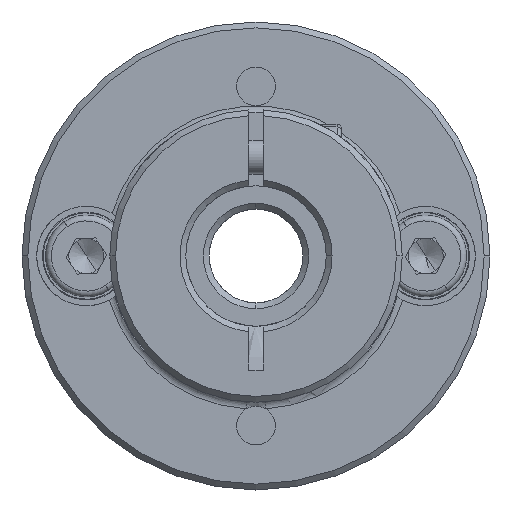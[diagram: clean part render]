
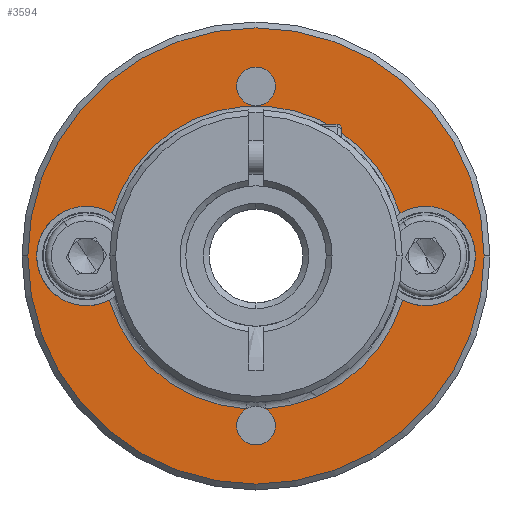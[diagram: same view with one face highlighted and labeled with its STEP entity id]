
A CAD part, front view. The second image highlights one B-rep face of the part: STEP entity #3594.
In plain terms, the highlighted planar face has unit normal (0, -1, 0).
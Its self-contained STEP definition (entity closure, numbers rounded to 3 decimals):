
#53 = VERTEX_POINT ( 'NONE', #5416 ) ;
#203 = EDGE_CURVE ( 'NONE', #6974, #1595, #9056, .T. ) ;
#229 = AXIS2_PLACEMENT_3D ( 'NONE', #10297, #12339, #1515 ) ;
#246 = EDGE_LOOP ( 'NONE', ( #4769, #977, #2061, #7427, #11714, #3789, #11215, #3000, #9687, #7069 ) ) ;
#372 = DIRECTION ( 'NONE',  ( 0., 1., 0. ) ) ;
#401 = CARTESIAN_POINT ( 'NONE',  ( -12.005, -13.63, 40. ) ) ;
#467 = CIRCLE ( 'NONE', #1573, 13.1 ) ;
#544 = CARTESIAN_POINT ( 'NONE',  ( -11.175, -13.63, 26.926 ) ) ;
#664 = CARTESIAN_POINT ( 'NONE',  ( -13.655, -13.63, 25.5 ) ) ;
#947 = CARTESIAN_POINT ( 'NONE',  ( -13.655, -13.63, 54.5 ) ) ;
#977 = ORIENTED_EDGE ( 'NONE', *, *, #9197, .T. ) ;
#1038 = CIRCLE ( 'NONE', #2825, 4.25 ) ;
#1058 = AXIS2_PLACEMENT_3D ( 'NONE', #9180, #9140, #8312 ) ;
#1106 = CIRCLE ( 'NONE', #12363, 4.25 ) ;
#1107 = DIRECTION ( 'NONE',  ( 0., 1., 0. ) ) ;
#1172 = FACE_BOUND ( 'NONE', #246, .T. ) ;
#1188 = CIRCLE ( 'NONE', #1058, 13.1 ) ;
#1226 = CARTESIAN_POINT ( 'NONE',  ( -12.005, -13.63, 25.5 ) ) ;
#1515 = DIRECTION ( 'NONE',  ( 1., 0., 0. ) ) ;
#1573 = AXIS2_PLACEMENT_3D ( 'NONE', #2959, #10890, #8036 ) ;
#1595 = VERTEX_POINT ( 'NONE', #2632 ) ;
#1668 = VERTEX_POINT ( 'NONE', #664 ) ;
#1695 = VERTEX_POINT ( 'NONE', #8691 ) ;
#1707 = CARTESIAN_POINT ( 'NONE',  ( -12.005, -13.63, 40. ) ) ;
#1756 = AXIS2_PLACEMENT_3D ( 'NONE', #7577, #4553, #8398 ) ;
#1835 = ORIENTED_EDGE ( 'NONE', *, *, #7664, .T. ) ;
#2061 = ORIENTED_EDGE ( 'NONE', *, *, #2668, .T. ) ;
#2155 = AXIS2_PLACEMENT_3D ( 'NONE', #5449, #11311, #7413 ) ;
#2159 = CIRCLE ( 'NONE', #4958, 19.5 ) ;
#2193 = EDGE_CURVE ( 'NONE', #3431, #1668, #9378, .T. ) ;
#2632 = CARTESIAN_POINT ( 'NONE',  ( -31.505, -13.63, 40. ) ) ;
#2668 = EDGE_CURVE ( 'NONE', #4781, #8834, #11688, .T. ) ;
#2685 = DIRECTION ( 'NONE',  ( 0., 1., 0. ) ) ;
#2788 = EDGE_CURVE ( 'NONE', #8253, #12700, #1188, .T. ) ;
#2815 = CARTESIAN_POINT ( 'NONE',  ( -26.505, -13.63, 40. ) ) ;
#2825 = AXIS2_PLACEMENT_3D ( 'NONE', #5097, #4070, #10119 ) ;
#2833 = AXIS2_PLACEMENT_3D ( 'NONE', #12725, #12769, #5976 ) ;
#2921 = DIRECTION ( 'NONE',  ( 0., 1., 0. ) ) ;
#2959 = CARTESIAN_POINT ( 'NONE',  ( -12.005, -13.63, 40. ) ) ;
#2987 = VERTEX_POINT ( 'NONE', #12669 ) ;
#3000 = ORIENTED_EDGE ( 'NONE', *, *, #2193, .T. ) ;
#3108 = DIRECTION ( 'NONE',  ( 1., 0., 0. ) ) ;
#3147 = AXIS2_PLACEMENT_3D ( 'NONE', #4888, #2921, #9819 ) ;
#3281 = CARTESIAN_POINT ( 'NONE',  ( 6.745, -13.63, 40. ) ) ;
#3314 = EDGE_CURVE ( 'NONE', #12700, #2987, #4389, .T. ) ;
#3423 = CARTESIAN_POINT ( 'NONE',  ( -24.307, -13.63, 43.638 ) ) ;
#3431 = VERTEX_POINT ( 'NONE', #10257 ) ;
#3594 = ADVANCED_FACE ( 'NONE', ( #10108, #1172, #11498 ), #4505, .T. ) ;
#3693 = ORIENTED_EDGE ( 'NONE', *, *, #203, .T. ) ;
#3755 = DIRECTION ( 'NONE',  ( 1., 0., 0. ) ) ;
#3789 = ORIENTED_EDGE ( 'NONE', *, *, #9935, .T. ) ;
#3926 = VERTEX_POINT ( 'NONE', #3281 ) ;
#4069 = EDGE_LOOP ( 'NONE', ( #10733, #8252 ) ) ;
#4070 = DIRECTION ( 'NONE',  ( 0., 1., 0. ) ) ;
#4298 = EDGE_CURVE ( 'NONE', #1668, #8253, #10918, .T. ) ;
#4389 = CIRCLE ( 'NONE', #7086, 4.25 ) ;
#4505 = PLANE ( 'NONE',  #11949 ) ;
#4553 = DIRECTION ( 'NONE',  ( 0., 1., 0. ) ) ;
#4769 = ORIENTED_EDGE ( 'NONE', *, *, #3314, .T. ) ;
#4781 = VERTEX_POINT ( 'NONE', #3423 ) ;
#4888 = CARTESIAN_POINT ( 'NONE',  ( -12.005, -13.63, 54.5 ) ) ;
#4958 = AXIS2_PLACEMENT_3D ( 'NONE', #401, #5188, #5100 ) ;
#5097 = CARTESIAN_POINT ( 'NONE',  ( 2.495, -13.63, 40. ) ) ;
#5100 = DIRECTION ( 'NONE',  ( 1., 0., 0. ) ) ;
#5188 = DIRECTION ( 'NONE',  ( 0., -1., 0. ) ) ;
#5329 = CIRCLE ( 'NONE', #1756, 1.65 ) ;
#5416 = CARTESIAN_POINT ( 'NONE',  ( -10.355, -13.63, 54.5 ) ) ;
#5449 = CARTESIAN_POINT ( 'NONE',  ( -12.005, -13.63, 25.5 ) ) ;
#5694 = EDGE_CURVE ( 'NONE', #8834, #3926, #6114, .T. ) ;
#5976 = DIRECTION ( 'NONE',  ( 1., 0., 0. ) ) ;
#6068 = DIRECTION ( 'NONE',  ( 1., 0., 0. ) ) ;
#6114 = CIRCLE ( 'NONE', #12499, 4.25 ) ;
#6288 = EDGE_CURVE ( 'NONE', #53, #12208, #8563, .T. ) ;
#6555 = DIRECTION ( 'NONE',  ( 0., -1., 0. ) ) ;
#6974 = VERTEX_POINT ( 'NONE', #10666 ) ;
#7069 = ORIENTED_EDGE ( 'NONE', *, *, #2788, .T. ) ;
#7086 = AXIS2_PLACEMENT_3D ( 'NONE', #10180, #372, #3108 ) ;
#7295 = AXIS2_PLACEMENT_3D ( 'NONE', #1226, #1107, #6068 ) ;
#7304 = VERTEX_POINT ( 'NONE', #544 ) ;
#7413 = DIRECTION ( 'NONE',  ( 1., 0., 0. ) ) ;
#7427 = ORIENTED_EDGE ( 'NONE', *, *, #5694, .T. ) ;
#7577 = CARTESIAN_POINT ( 'NONE',  ( -12.005, -13.63, 54.5 ) ) ;
#7622 = DIRECTION ( 'NONE',  ( 1., 0., 0. ) ) ;
#7664 = EDGE_CURVE ( 'NONE', #1595, #6974, #2159, .T. ) ;
#7821 = CIRCLE ( 'NONE', #7295, 1.65 ) ;
#7916 = DIRECTION ( 'NONE',  ( 1., 0., 0. ) ) ;
#8036 = DIRECTION ( 'NONE',  ( 1., 0., 0. ) ) ;
#8050 = CARTESIAN_POINT ( 'NONE',  ( -12.005, -13.63, 40. ) ) ;
#8055 = CARTESIAN_POINT ( 'NONE',  ( 0.298, -13.63, 43.638 ) ) ;
#8252 = ORIENTED_EDGE ( 'NONE', *, *, #6288, .T. ) ;
#8253 = VERTEX_POINT ( 'NONE', #8945 ) ;
#8312 = DIRECTION ( 'NONE',  ( 1., 0., 0. ) ) ;
#8398 = DIRECTION ( 'NONE',  ( 1., 0., 0. ) ) ;
#8563 = CIRCLE ( 'NONE', #3147, 1.65 ) ;
#8691 = CARTESIAN_POINT ( 'NONE',  ( 0.54, -13.63, 36.226 ) ) ;
#8834 = VERTEX_POINT ( 'NONE', #8055 ) ;
#8945 = CARTESIAN_POINT ( 'NONE',  ( -12.834, -13.63, 26.926 ) ) ;
#9056 = CIRCLE ( 'NONE', #2833, 19.5 ) ;
#9140 = DIRECTION ( 'NONE',  ( 0., 1., 0. ) ) ;
#9180 = CARTESIAN_POINT ( 'NONE',  ( -12.005, -13.63, 40. ) ) ;
#9197 = EDGE_CURVE ( 'NONE', #2987, #4781, #1106, .T. ) ;
#9378 = CIRCLE ( 'NONE', #229, 1.65 ) ;
#9687 = ORIENTED_EDGE ( 'NONE', *, *, #4298, .T. ) ;
#9792 = DIRECTION ( 'NONE',  ( 0., 1., 0. ) ) ;
#9819 = DIRECTION ( 'NONE',  ( 1., 0., 0. ) ) ;
#9935 = EDGE_CURVE ( 'NONE', #1695, #7304, #467, .T. ) ;
#9965 = DIRECTION ( 'NONE',  ( 0., 1., 0. ) ) ;
#10017 = DIRECTION ( 'NONE',  ( 1., 0., 0. ) ) ;
#10108 = FACE_OUTER_BOUND ( 'NONE', #12030, .T. ) ;
#10119 = DIRECTION ( 'NONE',  ( 1., 0., 0. ) ) ;
#10180 = CARTESIAN_POINT ( 'NONE',  ( -26.505, -13.63, 40. ) ) ;
#10257 = CARTESIAN_POINT ( 'NONE',  ( -10.355, -13.63, 25.5 ) ) ;
#10292 = AXIS2_PLACEMENT_3D ( 'NONE', #8050, #9965, #10017 ) ;
#10297 = CARTESIAN_POINT ( 'NONE',  ( -12.005, -13.63, 25.5 ) ) ;
#10666 = CARTESIAN_POINT ( 'NONE',  ( 7.495, -13.63, 40. ) ) ;
#10733 = ORIENTED_EDGE ( 'NONE', *, *, #11170, .T. ) ;
#10890 = DIRECTION ( 'NONE',  ( 0., 1., 0. ) ) ;
#10918 = CIRCLE ( 'NONE', #2155, 1.65 ) ;
#10990 = EDGE_CURVE ( 'NONE', #7304, #3431, #7821, .T. ) ;
#11170 = EDGE_CURVE ( 'NONE', #12208, #53, #5329, .T. ) ;
#11215 = ORIENTED_EDGE ( 'NONE', *, *, #10990, .T. ) ;
#11311 = DIRECTION ( 'NONE',  ( 0., 1., 0. ) ) ;
#11498 = FACE_BOUND ( 'NONE', #4069, .T. ) ;
#11544 = EDGE_CURVE ( 'NONE', #3926, #1695, #1038, .T. ) ;
#11604 = CARTESIAN_POINT ( 'NONE',  ( -24.55, -13.63, 36.226 ) ) ;
#11688 = CIRCLE ( 'NONE', #10292, 12.829 ) ;
#11714 = ORIENTED_EDGE ( 'NONE', *, *, #11544, .T. ) ;
#11744 = CARTESIAN_POINT ( 'NONE',  ( 2.495, -13.63, 40. ) ) ;
#11949 = AXIS2_PLACEMENT_3D ( 'NONE', #1707, #6555, #7622 ) ;
#12030 = EDGE_LOOP ( 'NONE', ( #1835, #3693 ) ) ;
#12208 = VERTEX_POINT ( 'NONE', #947 ) ;
#12339 = DIRECTION ( 'NONE',  ( 0., 1., 0. ) ) ;
#12363 = AXIS2_PLACEMENT_3D ( 'NONE', #2815, #2685, #3755 ) ;
#12499 = AXIS2_PLACEMENT_3D ( 'NONE', #11744, #9792, #7916 ) ;
#12669 = CARTESIAN_POINT ( 'NONE',  ( -30.755, -13.63, 40. ) ) ;
#12700 = VERTEX_POINT ( 'NONE', #11604 ) ;
#12725 = CARTESIAN_POINT ( 'NONE',  ( -12.005, -13.63, 40. ) ) ;
#12769 = DIRECTION ( 'NONE',  ( 0., -1., 0. ) ) ;
